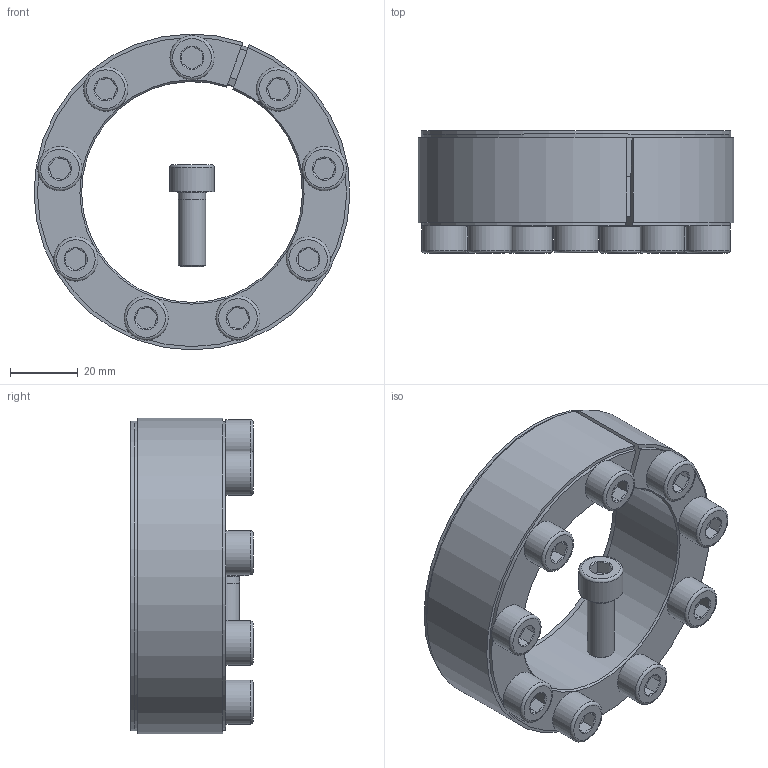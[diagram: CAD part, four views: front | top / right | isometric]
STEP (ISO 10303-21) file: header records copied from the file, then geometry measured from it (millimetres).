
FILE_DESCRIPTION( ( 'Unknown' ), '1' );
FILE_NAME( 'C:/Dokumente und Einstellungen/Sven/Desktop/homepage/cad - homepage/KBS52/KBS 52 - 65 x 93.stp', 'Unknown', ( 'Unknown' ), ( 'Unknown' ), 'XStep 1.0', 'Unknown', ' ' );
FILE_SCHEMA( ( 'automotive_design' ) );
Length unit declared in the file: millimetre
Products named in the file (3): Assem1; KBS 52 - 65 x 93; ISO EN DIN 4762 M8x22
Bounding box: 92.99 x 36 x 92.99 mm (x, y, z)
Volume: 186617.2 mm3; surface area: 65251.1 mm2
Topology: 12 solids, 12 shells, 308 faces, 606 edges, 360 vertices
Faces by surface type: plane 146, cone 76, cylinder 66, torus 20
Full cylindrical faces by diameter (mm): 7 x10, 8 x38, 13 x10, 91.175 x2
Entity records: 1789 total; most frequent: CARTESIAN_POINT 289, DIRECTION 271, ORIENTED_EDGE 200, AXIS2_PLACEMENT_3D 114, EDGE_CURVE 100, EDGE_LOOP 96, VERTEX_POINT 72, FACE_OUTER_BOUND 70
